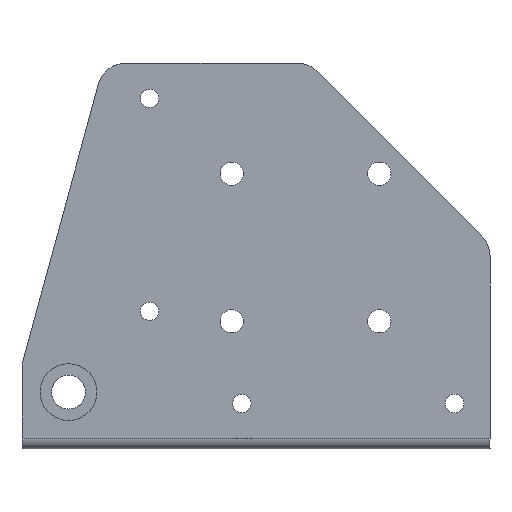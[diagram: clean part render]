
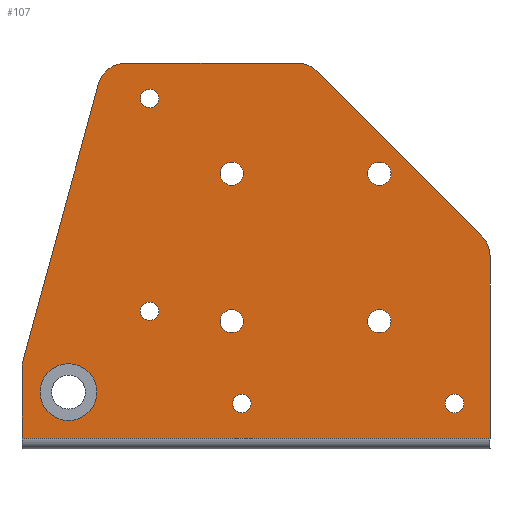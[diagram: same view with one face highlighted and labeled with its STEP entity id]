
A CAD part, top view. The second image highlights one B-rep face of the part: STEP entity #107.
In plain terms, the highlighted planar face has unit normal (0, 0, 1).
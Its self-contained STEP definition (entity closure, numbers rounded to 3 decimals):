
#107=ADVANCED_FACE('',(#266,#267,#268,#269,#270,#271,#272,#273,#274,#275),#276,.F.);
#266=FACE_BOUND('',#578,.T.);
#267=FACE_BOUND('',#579,.T.);
#268=FACE_BOUND('',#580,.T.);
#269=FACE_BOUND('',#581,.T.);
#270=FACE_BOUND('',#582,.T.);
#271=FACE_BOUND('',#583,.T.);
#272=FACE_BOUND('',#584,.T.);
#273=FACE_BOUND('',#585,.T.);
#274=FACE_BOUND('',#586,.T.);
#275=FACE_OUTER_BOUND('',#587,.T.);
#276=PLANE('',#588);
#578=EDGE_LOOP('',(#1936));
#579=EDGE_LOOP('',(#1937));
#580=EDGE_LOOP('',(#1938));
#581=EDGE_LOOP('',(#1939));
#582=EDGE_LOOP('',(#1940));
#583=EDGE_LOOP('',(#1941));
#584=EDGE_LOOP('',(#1942));
#585=EDGE_LOOP('',(#1943));
#586=EDGE_LOOP('',(#1944));
#587=EDGE_LOOP('',(#1945,#1946,#1947,#1948,#1949,#1950,#1951,#1952,#1953,#1954));
#588=AXIS2_PLACEMENT_3D('',#1955,#1956,#1957);
#1936=ORIENTED_EDGE('',*,*,#2454,.F.);
#1937=ORIENTED_EDGE('',*,*,#2455,.F.);
#1938=ORIENTED_EDGE('',*,*,#2456,.F.);
#1939=ORIENTED_EDGE('',*,*,#2457,.F.);
#1940=ORIENTED_EDGE('',*,*,#2418,.F.);
#1941=ORIENTED_EDGE('',*,*,#2458,.F.);
#1942=ORIENTED_EDGE('',*,*,#2459,.F.);
#1943=ORIENTED_EDGE('',*,*,#2460,.F.);
#1944=ORIENTED_EDGE('',*,*,#2461,.F.);
#1945=ORIENTED_EDGE('',*,*,#2462,.F.);
#1946=ORIENTED_EDGE('',*,*,#2463,.F.);
#1947=ORIENTED_EDGE('',*,*,#2464,.F.);
#1948=ORIENTED_EDGE('',*,*,#2465,.F.);
#1949=ORIENTED_EDGE('',*,*,#2466,.F.);
#1950=ORIENTED_EDGE('',*,*,#2467,.F.);
#1951=ORIENTED_EDGE('',*,*,#2468,.F.);
#1952=ORIENTED_EDGE('',*,*,#2469,.F.);
#1953=ORIENTED_EDGE('',*,*,#2470,.F.);
#1954=ORIENTED_EDGE('',*,*,#2471,.F.);
#1955=CARTESIAN_POINT('',(-13.659,32.657,0.));
#1956=DIRECTION('',(0.0,0.0,-1.0));
#1957=DIRECTION('',(1.0,0.0,0.0));
#2418=EDGE_CURVE('',#2657,#2657,#2658,.T.);
#2454=EDGE_CURVE('',#2719,#2719,#2720,.T.);
#2455=EDGE_CURVE('',#2721,#2721,#2722,.T.);
#2456=EDGE_CURVE('',#2723,#2723,#2724,.T.);
#2457=EDGE_CURVE('',#2725,#2725,#2726,.T.);
#2458=EDGE_CURVE('',#2727,#2727,#2728,.T.);
#2459=EDGE_CURVE('',#2729,#2729,#2730,.T.);
#2460=EDGE_CURVE('',#2731,#2731,#2732,.T.);
#2461=EDGE_CURVE('',#2733,#2733,#2734,.T.);
#2462=EDGE_CURVE('',#2735,#2736,#2737,.T.);
#2463=EDGE_CURVE('',#2738,#2735,#2739,.T.);
#2464=EDGE_CURVE('',#2740,#2738,#2741,.T.);
#2465=EDGE_CURVE('',#2742,#2740,#2743,.T.);
#2466=EDGE_CURVE('',#2744,#2742,#2745,.T.);
#2467=EDGE_CURVE('',#2746,#2744,#2747,.T.);
#2468=EDGE_CURVE('',#2748,#2746,#2749,.T.);
#2469=EDGE_CURVE('',#2750,#2748,#2751,.T.);
#2470=EDGE_CURVE('',#2752,#2750,#2753,.T.);
#2471=EDGE_CURVE('',#2736,#2752,#2754,.T.);
#2657=VERTEX_POINT('',#3130);
#2658=CIRCLE('',#3131,3.25);
#2719=VERTEX_POINT('',#3268);
#2720=CIRCLE('',#3269,10.0);
#2721=VERTEX_POINT('',#3270);
#2722=CIRCLE('',#3271,3.25);
#2723=VERTEX_POINT('',#3272);
#2724=CIRCLE('',#3273,3.25);
#2725=VERTEX_POINT('',#3274);
#2726=CIRCLE('',#3275,3.25);
#2727=VERTEX_POINT('',#3276);
#2728=CIRCLE('',#3277,4.1);
#2729=VERTEX_POINT('',#3278);
#2730=CIRCLE('',#3279,4.1);
#2731=VERTEX_POINT('',#3280);
#2732=CIRCLE('',#3281,4.1);
#2733=VERTEX_POINT('',#3282);
#2734=CIRCLE('',#3283,4.1);
#2735=VERTEX_POINT('',#3284);
#2736=VERTEX_POINT('',#3285);
#2737=LINE('',#3286,#3287);
#2738=VERTEX_POINT('',#3288);
#2739=LINE('',#3289,#3290);
#2740=VERTEX_POINT('',#3291);
#2741=LINE('',#3292,#3293);
#2742=VERTEX_POINT('',#3294);
#2743=CIRCLE('',#3295,10.);
#2744=VERTEX_POINT('',#3296);
#2745=LINE('',#3297,#3298);
#2746=VERTEX_POINT('',#3299);
#2747=CIRCLE('',#3300,10.);
#2748=VERTEX_POINT('',#3301);
#2749=LINE('',#3302,#3303);
#2750=VERTEX_POINT('',#3304);
#2751=CIRCLE('',#3305,10.);
#2752=VERTEX_POINT('',#3306);
#2753=LINE('',#3307,#3308);
#2754=CIRCLE('',#3309,10.0);
#3130=CARTESIAN_POINT('',(18.091,127.5,0.));
#3131=AXIS2_PLACEMENT_3D('',#4694,#4695,#4696);
#3268=CARTESIAN_POINT('',(-17.259,24.0,0.));
#3269=AXIS2_PLACEMENT_3D('',#4743,#4744,#4745);
#3270=CARTESIAN_POINT('',(125.591,20.0,0.));
#3271=AXIS2_PLACEMENT_3D('',#4746,#4747,#4748);
#3272=CARTESIAN_POINT('',(50.591,20.0,0.));
#3273=AXIS2_PLACEMENT_3D('',#4749,#4750,#4751);
#3274=CARTESIAN_POINT('',(18.091,52.5,0.));
#3275=AXIS2_PLACEMENT_3D('',#4752,#4753,#4754);
#3276=CARTESIAN_POINT('',(98.241,49.0,0.));
#3277=AXIS2_PLACEMENT_3D('',#4755,#4756,#4757);
#3278=CARTESIAN_POINT('',(98.241,101.0,0.));
#3279=AXIS2_PLACEMENT_3D('',#4758,#4759,#4760);
#3280=CARTESIAN_POINT('',(46.241,101.0,0.));
#3281=AXIS2_PLACEMENT_3D('',#4761,#4762,#4763);
#3282=CARTESIAN_POINT('',(46.241,49.0,0.));
#3283=AXIS2_PLACEMENT_3D('',#4764,#4765,#4766);
#3284=CARTESIAN_POINT('',(-23.659,7.75,0.));
#3285=CARTESIAN_POINT('',(-23.659,32.657,0.));
#3286=CARTESIAN_POINT('',(-23.659,4.,0.));
#3287=VECTOR('',#4767,1.0);
#3288=CARTESIAN_POINT('',(141.341,7.75,0.));
#3289=CARTESIAN_POINT('',(141.341,7.75,0.));
#3290=VECTOR('',#4768,1.0);
#3291=CARTESIAN_POINT('',(141.341,72.0,0.));
#3292=CARTESIAN_POINT('',(141.341,72.0,0.));
#3293=VECTOR('',#4769,1.0);
#3294=CARTESIAN_POINT('',(138.412,79.071,0.));
#3295=AXIS2_PLACEMENT_3D('',#4770,#4771,#4772);
#3296=CARTESIAN_POINT('',(80.412,137.071,0.));
#3297=CARTESIAN_POINT('',(80.412,137.071,0.));
#3298=VECTOR('',#4773,1.0);
#3299=CARTESIAN_POINT('',(73.341,140.0,0.));
#3300=AXIS2_PLACEMENT_3D('',#4774,#4775,#4776);
#3301=CARTESIAN_POINT('',(12.973,140.0,0.));
#3302=CARTESIAN_POINT('',(12.973,140.0,0.));
#3303=VECTOR('',#4777,1.0);
#3304=CARTESIAN_POINT('',(3.327,132.639,0.));
#3305=AXIS2_PLACEMENT_3D('',#4778,#4779,#4780);
#3306=CARTESIAN_POINT('',(-23.304,35.296,0.));
#3307=CARTESIAN_POINT('',(-23.304,35.296,0.));
#3308=VECTOR('',#4781,1.0);
#3309=AXIS2_PLACEMENT_3D('',#4782,#4783,#4784);
#4694=CARTESIAN_POINT('',(21.341,127.5,0.));
#4695=DIRECTION('',(0.0,0.0,1.0));
#4696=DIRECTION('',(-1.0,0.0,0.0));
#4743=CARTESIAN_POINT('',(-7.259,24.0,0.));
#4744=DIRECTION('',(0.0,0.0,1.0));
#4745=DIRECTION('',(-1.0,0.0,0.0));
#4746=CARTESIAN_POINT('',(128.841,20.0,0.));
#4747=DIRECTION('',(0.0,0.0,1.0));
#4748=DIRECTION('',(-1.0,0.0,0.0));
#4749=CARTESIAN_POINT('',(53.841,20.0,0.));
#4750=DIRECTION('',(0.0,0.0,1.0));
#4751=DIRECTION('',(-1.0,0.0,0.0));
#4752=CARTESIAN_POINT('',(21.341,52.5,0.));
#4753=DIRECTION('',(0.0,0.0,1.0));
#4754=DIRECTION('',(-1.0,0.0,0.0));
#4755=CARTESIAN_POINT('',(102.341,49.0,0.));
#4756=DIRECTION('',(0.0,0.0,1.0));
#4757=DIRECTION('',(-1.0,0.0,0.0));
#4758=CARTESIAN_POINT('',(102.341,101.0,0.));
#4759=DIRECTION('',(0.0,0.0,1.0));
#4760=DIRECTION('',(-1.0,0.0,0.0));
#4761=CARTESIAN_POINT('',(50.341,101.0,0.));
#4762=DIRECTION('',(0.0,0.0,1.0));
#4763=DIRECTION('',(-1.0,0.0,0.0));
#4764=CARTESIAN_POINT('',(50.341,49.0,0.));
#4765=DIRECTION('',(0.0,0.0,1.0));
#4766=DIRECTION('',(-1.0,0.0,0.0));
#4767=DIRECTION('',(0.0,1.0,0.0));
#4768=DIRECTION('',(-1.0,0.0,0.0));
#4769=DIRECTION('',(0.0,-1.0,0.0));
#4770=CARTESIAN_POINT('',(131.341,72.0,0.));
#4771=DIRECTION('',(0.0,0.0,-1.0));
#4772=DIRECTION('',(1.0,0.0,0.0));
#4773=DIRECTION('',(0.707,-0.707,0.0));
#4774=CARTESIAN_POINT('',(73.341,130.0,0.));
#4775=DIRECTION('',(0.0,0.0,-1.0));
#4776=DIRECTION('',(1.0,0.0,0.0));
#4777=DIRECTION('',(1.0,0.0,0.0));
#4778=CARTESIAN_POINT('',(12.973,130.0,0.));
#4779=DIRECTION('',(0.0,0.0,-1.0));
#4780=DIRECTION('',(1.0,0.0,0.0));
#4781=DIRECTION('',(0.264,0.965,0.0));
#4782=CARTESIAN_POINT('',(-13.659,32.657,0.));
#4783=DIRECTION('',(0.0,0.0,-1.0));
#4784=DIRECTION('',(1.0,0.0,0.0));
